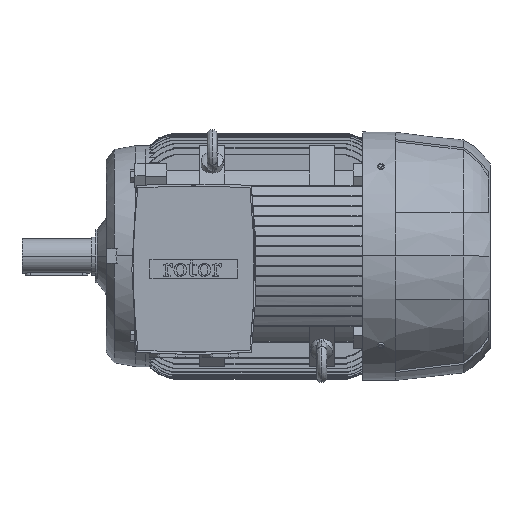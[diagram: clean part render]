
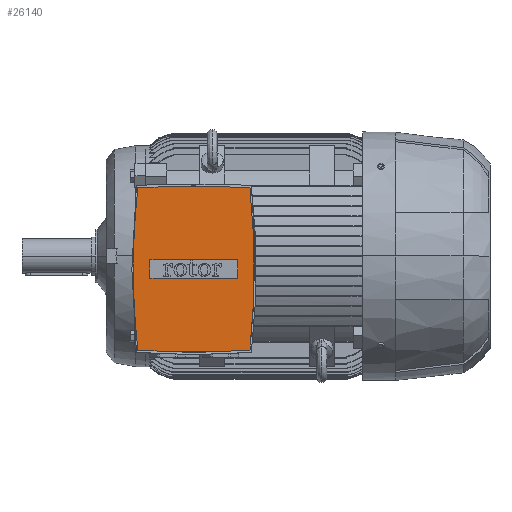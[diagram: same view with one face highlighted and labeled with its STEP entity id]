
A CAD part, top view. The second image highlights one B-rep face of the part: STEP entity #26140.
In plain terms, the highlighted planar face has unit normal (0, 0, 1).
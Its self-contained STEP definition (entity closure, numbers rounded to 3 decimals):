
#605 = CARTESIAN_POINT ( 'NONE',  ( 147., -21., 315. ) ) ;
#737 = CARTESIAN_POINT ( 'NONE',  ( 147., -36., 315. ) ) ;
#926 = DIRECTION ( 'NONE',  ( 0., 1., 0. ) ) ;
#1046 = ORIENTED_EDGE ( 'NONE', *, *, #28449, .F. ) ;
#1663 = FACE_OUTER_BOUND ( 'NONE', #39632, .T. ) ;
#1877 = DIRECTION ( 'NONE',  ( 0., 0., 1. ) ) ;
#2865 = DIRECTION ( 'NONE',  ( 1., 0., 0. ) ) ;
#3329 = VECTOR ( 'NONE', #926, 1000. ) ;
#4025 = VERTEX_POINT ( 'NONE', #50706 ) ;
#5167 = CARTESIAN_POINT ( 'NONE',  ( 77., -1105.96, 315. ) ) ;
#6359 = DIRECTION ( 'NONE',  ( 0., 0., -1. ) ) ;
#6802 = CIRCLE ( 'NONE', #10011, 1217.46 ) ;
#7837 = VERTEX_POINT ( 'NONE', #28634 ) ;
#8733 = ORIENTED_EDGE ( 'NONE', *, *, #28621, .F. ) ;
#9453 = DIRECTION ( 'NONE',  ( -1., 0., 0. ) ) ;
#10011 = AXIS2_PLACEMENT_3D ( 'NONE', #42725, #17690, #47023 ) ;
#10237 = CARTESIAN_POINT ( 'NONE',  ( 77., -21., 315. ) ) ;
#11400 = AXIS2_PLACEMENT_3D ( 'NONE', #50330, #50193, #50083 ) ;
#11419 = VERTEX_POINT ( 'NONE', #31195 ) ;
#11484 = CIRCLE ( 'NONE', #45899, 1170.4 ) ;
#12659 = VECTOR ( 'NONE', #52684, 1000. ) ;
#14279 = VERTEX_POINT ( 'NONE', #34946 ) ;
#14409 = CARTESIAN_POINT ( 'NONE',  ( -12.345, 108.217, 315. ) ) ;
#16021 = VERTEX_POINT ( 'NONE', #14409 ) ;
#16565 = LINE ( 'NONE', #605, #38772 ) ;
#16687 = CARTESIAN_POINT ( 'NONE',  ( 7., -6., 315. ) ) ;
#16778 = CIRCLE ( 'NONE', #38149, 1170.4 ) ;
#16885 = EDGE_CURVE ( 'NONE', #26091, #19659, #52814, .T. ) ;
#17690 = DIRECTION ( 'NONE',  ( 0., 0., -1. ) ) ;
#17698 = DIRECTION ( 'NONE',  ( 0., -1., 0. ) ) ;
#17869 = CARTESIAN_POINT ( 'NONE',  ( -12.345, -150.217, 315. ) ) ;
#19179 = CARTESIAN_POINT ( 'NONE',  ( 77., -36., 315. ) ) ;
#19659 = VERTEX_POINT ( 'NONE', #37425 ) ;
#21635 = FACE_BOUND ( 'NONE', #46758, .T. ) ;
#23114 = DIRECTION ( 'NONE',  ( 0., 0., -1. ) ) ;
#24037 = CARTESIAN_POINT ( 'NONE',  ( 77., -6., 315. ) ) ;
#26091 = VERTEX_POINT ( 'NONE', #17869 ) ;
#26140 = ADVANCED_FACE ( 'NONE', ( #1663, #21635 ), #39558, .T. ) ;
#27154 = VECTOR ( 'NONE', #2865, 1000. ) ;
#28117 = EDGE_CURVE ( 'NONE', #4025, #11419, #11484, .T. ) ;
#28449 = EDGE_CURVE ( 'NONE', #11419, #26091, #6802, .T. ) ;
#28621 = EDGE_CURVE ( 'NONE', #19659, #16021, #16778, .T. ) ;
#28634 = CARTESIAN_POINT ( 'NONE',  ( 147., -6., 315. ) ) ;
#29006 = EDGE_CURVE ( 'NONE', #16021, #4025, #44236, .T. ) ;
#29739 = AXIS2_PLACEMENT_3D ( 'NONE', #10237, #1877, #31419 ) ;
#29868 = EDGE_CURVE ( 'NONE', #41755, #14279, #36296, .T. ) ;
#30186 = EDGE_CURVE ( 'NONE', #14279, #35950, #35619, .T. ) ;
#30507 = CARTESIAN_POINT ( 'NONE',  ( 7., -21., 315. ) ) ;
#30812 = EDGE_CURVE ( 'NONE', #35950, #7837, #38173, .T. ) ;
#31122 = EDGE_CURVE ( 'NONE', #7837, #41755, #16565, .T. ) ;
#31195 = CARTESIAN_POINT ( 'NONE',  ( 166.345, -150.217, 315. ) ) ;
#31419 = DIRECTION ( 'NONE',  ( 1., 0., 0. ) ) ;
#31504 = ORIENTED_EDGE ( 'NONE', *, *, #30186, .T. ) ;
#31603 = CARTESIAN_POINT ( 'NONE',  ( 1150.9, -21., 315. ) ) ;
#33084 = ORIENTED_EDGE ( 'NONE', *, *, #16885, .F. ) ;
#34211 = ORIENTED_EDGE ( 'NONE', *, *, #28117, .F. ) ;
#34640 = DIRECTION ( 'NONE',  ( 0., 0., -1. ) ) ;
#34946 = CARTESIAN_POINT ( 'NONE',  ( 7., -36., 315. ) ) ;
#35619 = LINE ( 'NONE', #30507, #3329 ) ;
#35788 = DIRECTION ( 'NONE',  ( -1., 0., 0. ) ) ;
#35950 = VERTEX_POINT ( 'NONE', #16687 ) ;
#36296 = LINE ( 'NONE', #19179, #12659 ) ;
#37425 = CARTESIAN_POINT ( 'NONE',  ( -19.5, -21., 315. ) ) ;
#38149 = AXIS2_PLACEMENT_3D ( 'NONE', #31603, #6359, #35788 ) ;
#38173 = LINE ( 'NONE', #24037, #27154 ) ;
#38772 = VECTOR ( 'NONE', #17698, 1000. ) ;
#39558 = PLANE ( 'NONE',  #29739 ) ;
#39632 = EDGE_LOOP ( 'NONE', ( #49371, #8733, #33084, #1046, #34211 ) ) ;
#41755 = VERTEX_POINT ( 'NONE', #737 ) ;
#42725 = CARTESIAN_POINT ( 'NONE',  ( 77., 1063.96, 315. ) ) ;
#44236 = CIRCLE ( 'NONE', #53987, 1217.46 ) ;
#44947 = ORIENTED_EDGE ( 'NONE', *, *, #31122, .T. ) ;
#45899 = AXIS2_PLACEMENT_3D ( 'NONE', #48187, #23114, #52374 ) ;
#46758 = EDGE_LOOP ( 'NONE', ( #47411, #44947, #52614, #31504 ) ) ;
#47023 = DIRECTION ( 'NONE',  ( -1., 0., 0. ) ) ;
#47411 = ORIENTED_EDGE ( 'NONE', *, *, #30812, .T. ) ;
#48187 = CARTESIAN_POINT ( 'NONE',  ( -996.9, -21., 315. ) ) ;
#49371 = ORIENTED_EDGE ( 'NONE', *, *, #29006, .F. ) ;
#50083 = DIRECTION ( 'NONE',  ( -1., 0., 0. ) ) ;
#50193 = DIRECTION ( 'NONE',  ( 0., 0., -1. ) ) ;
#50330 = CARTESIAN_POINT ( 'NONE',  ( 1150.9, -21., 315. ) ) ;
#50706 = CARTESIAN_POINT ( 'NONE',  ( 166.345, 108.217, 315. ) ) ;
#52374 = DIRECTION ( 'NONE',  ( -1., 0., 0. ) ) ;
#52614 = ORIENTED_EDGE ( 'NONE', *, *, #29868, .T. ) ;
#52684 = DIRECTION ( 'NONE',  ( -1., 0., 0. ) ) ;
#52814 = CIRCLE ( 'NONE', #11400, 1170.4 ) ;
#53987 = AXIS2_PLACEMENT_3D ( 'NONE', #5167, #34640, #9453 ) ;
